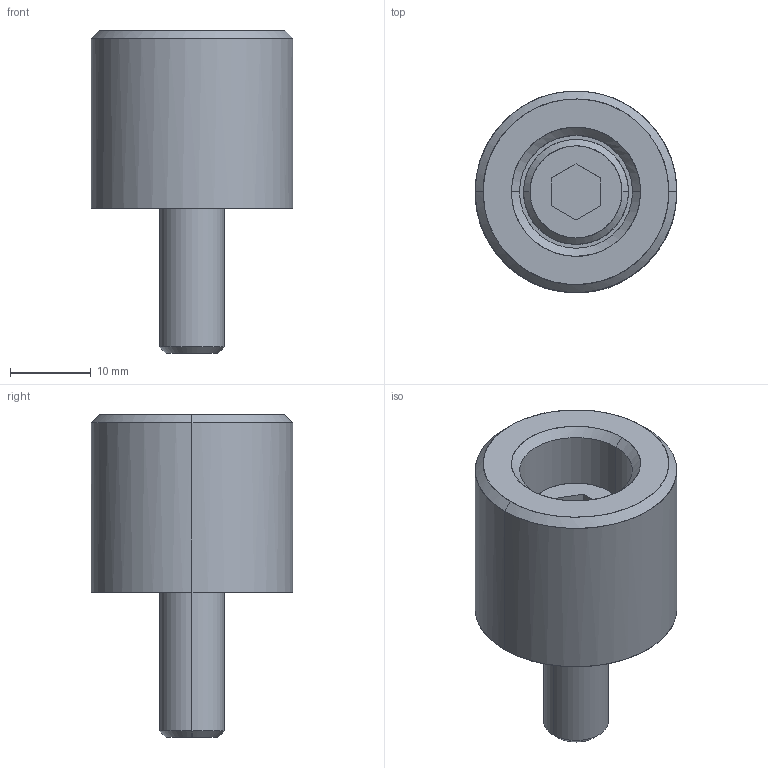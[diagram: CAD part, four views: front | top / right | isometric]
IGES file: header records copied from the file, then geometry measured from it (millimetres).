
Global section: file name: E:\UnigraphicsGraphicData\MISUMI_PRESS-PARTS\IGES\3d_sbv25-22-n-25_00591_r00.igs; native system: NX V5.0; preprocessor: UGS NX IGES V5.0; author: MISUMI; date: 20110105.162508; units: millimetre
Bounding box: 25 x 25 x 40 mm (x, y, z)
Surface area: 4642.5 mm2 (no closed solid volume)
Topology: 0 solids, 0 shells, 31 faces, 188 edges, 188 vertices
Faces by surface type: bspline 31
